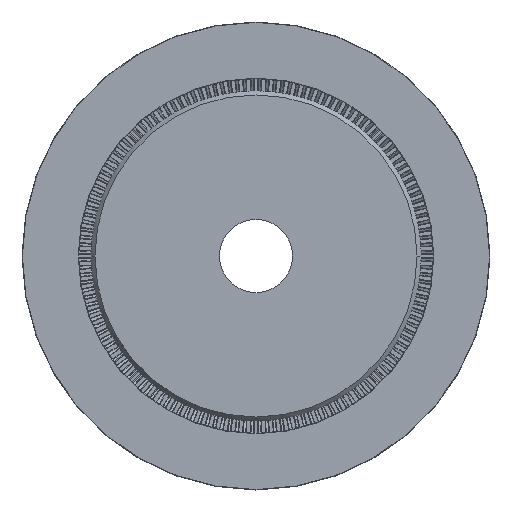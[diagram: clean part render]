
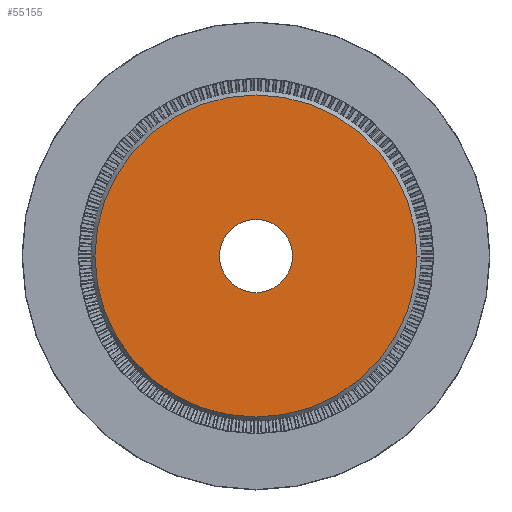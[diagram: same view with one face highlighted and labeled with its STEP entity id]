
A CAD part, top view. The second image highlights one B-rep face of the part: STEP entity #55155.
In plain terms, the highlighted planar face has unit normal (0, 0, 1).
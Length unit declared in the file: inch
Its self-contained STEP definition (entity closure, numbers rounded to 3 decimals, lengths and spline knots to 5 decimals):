
#538 = DIRECTION ( 'NONE',  ( 1., 0., 0. ) ) ;
#1296 = CIRCLE ( 'NONE', #41616, 2.745 ) ;
#1702 = VERTEX_POINT ( 'NONE', #49919 ) ;
#3051 = CARTESIAN_POINT ( 'NONE',  ( 0., 0., -0.25 ) ) ;
#4887 = ORIENTED_EDGE ( 'NONE', *, *, #63054, .T. ) ;
#5181 = EDGE_CURVE ( 'NONE', #46794, #16136, #51062, .T. ) ;
#5787 = DIRECTION ( 'NONE',  ( 0., 0., 1. ) ) ;
#9937 = FACE_BOUND ( 'NONE', #57958, .T. ) ;
#10274 = CARTESIAN_POINT ( 'NONE',  ( 0., 2.41371, -0.25 ) ) ;
#15723 = EDGE_LOOP ( 'NONE', ( #4887, #36137 ) ) ;
#15866 = ORIENTED_EDGE ( 'NONE', *, *, #5181, .F. ) ;
#16136 = VERTEX_POINT ( 'NONE', #59125 ) ;
#16404 = VERTEX_POINT ( 'NONE', #36330 ) ;
#21905 = AXIS2_PLACEMENT_3D ( 'NONE', #10274, #32253, #54286 ) ;
#23123 = AXIS2_PLACEMENT_3D ( 'NONE', #32846, #5787, #64973 ) ;
#25064 = DIRECTION ( 'NONE',  ( 1., 0., 0. ) ) ;
#26514 = CARTESIAN_POINT ( 'NONE',  ( 0., 0., -0.25 ) ) ;
#28829 = DIRECTION ( 'NONE',  ( 1., 0., 0. ) ) ;
#32253 = DIRECTION ( 'NONE',  ( 0., 0., 1. ) ) ;
#32573 = AXIS2_PLACEMENT_3D ( 'NONE', #62035, #43987, #28829 ) ;
#32846 = CARTESIAN_POINT ( 'NONE',  ( 0., 0., -0.25 ) ) ;
#33144 = ORIENTED_EDGE ( 'NONE', *, *, #49178, .F. ) ;
#36137 = ORIENTED_EDGE ( 'NONE', *, *, #65935, .T. ) ;
#36330 = CARTESIAN_POINT ( 'NONE',  ( 12.09566, 0., -0.25 ) ) ;
#38254 = CIRCLE ( 'NONE', #23123, 12.09566 ) ;
#40230 = DIRECTION ( 'NONE',  ( 0., 0., 1. ) ) ;
#41616 = AXIS2_PLACEMENT_3D ( 'NONE', #3051, #40230, #25064 ) ;
#43089 = FACE_OUTER_BOUND ( 'NONE', #15723, .T. ) ;
#43987 = DIRECTION ( 'NONE',  ( 0., 0., 1. ) ) ;
#44191 = DIRECTION ( 'NONE',  ( 0., 0., 1. ) ) ;
#46794 = VERTEX_POINT ( 'NONE', #61694 ) ;
#49178 = EDGE_CURVE ( 'NONE', #16136, #46794, #1296, .T. ) ;
#49919 = CARTESIAN_POINT ( 'NONE',  ( -12.09566, 0., -0.25 ) ) ;
#51062 = CIRCLE ( 'NONE', #67212, 2.745 ) ;
#54286 = DIRECTION ( 'NONE',  ( 1., 0., 0. ) ) ;
#55155 = ADVANCED_FACE ( 'NONE', ( #9937, #43089 ), #59694, .T. ) ;
#57958 = EDGE_LOOP ( 'NONE', ( #15866, #33144 ) ) ;
#59125 = CARTESIAN_POINT ( 'NONE',  ( -2.745, 0., -0.25 ) ) ;
#59694 = PLANE ( 'NONE',  #21905 ) ;
#61694 = CARTESIAN_POINT ( 'NONE',  ( 2.745, 0., -0.25 ) ) ;
#62035 = CARTESIAN_POINT ( 'NONE',  ( 0., 0., -0.25 ) ) ;
#62574 = CIRCLE ( 'NONE', #32573, 12.09566 ) ;
#63054 = EDGE_CURVE ( 'NONE', #1702, #16404, #38254, .T. ) ;
#64973 = DIRECTION ( 'NONE',  ( 1., 0., 0. ) ) ;
#65935 = EDGE_CURVE ( 'NONE', #16404, #1702, #62574, .T. ) ;
#67212 = AXIS2_PLACEMENT_3D ( 'NONE', #26514, #44191, #538 ) ;
